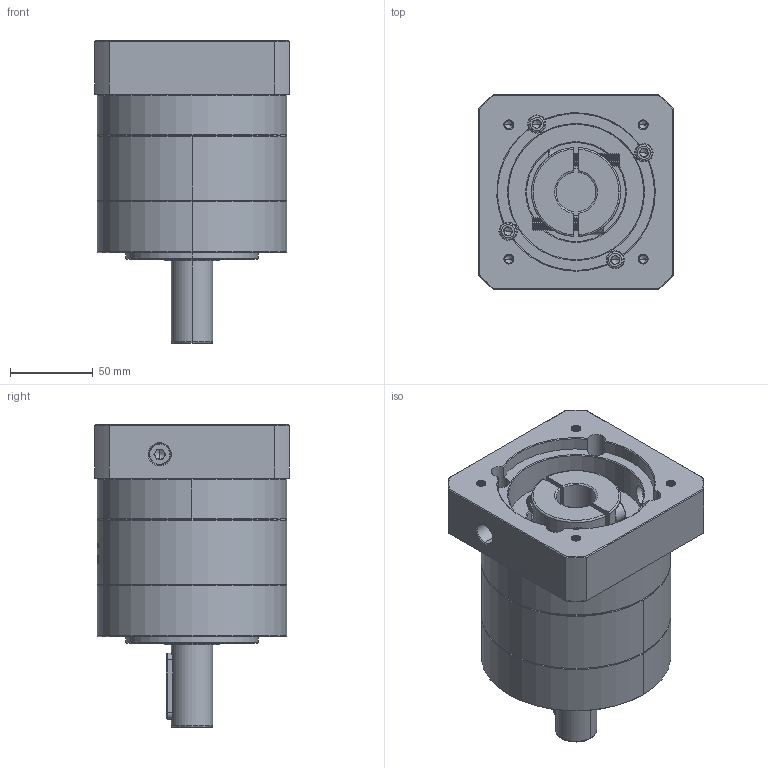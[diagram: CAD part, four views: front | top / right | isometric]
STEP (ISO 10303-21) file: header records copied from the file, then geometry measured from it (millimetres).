
FILE_DESCRIPTION (( 'STEP AP214' ), '1' );
FILE_NAME ('ZE120A-D25-L1-24-95-115-M6.step', '2023-03-09T06:23:00', ( '' ), ( '' ), 'SwSTEP 2.0', 'SolidWorks 2016', '' );
FILE_SCHEMA (( 'AUTOMOTIVE_DESIGN' ));
Length unit declared in the file: millimetre
Products named in the file (1): ZE120A-D25-L1-24-95-115-M6
Bounding box: 118 x 118 x 183.5 mm (x, y, z)
Volume: 1302276.4 mm3; surface area: 152309.5 mm2
Topology: 6 solids, 6 shells, 2046 faces, 5413 edges, 3460 vertices
Faces by surface type: plane 836, cylinder 519, bspline 353, cone 338
Entity records: 118404 total; most frequent: CARTESIAN_POINT 49806, ORIENTED_EDGE 10750, DIRECTION 8110, EDGE_CURVE 5375, VERTEX_POINT 3460, LINE 2806, VECTOR 2806, AXIS2_PLACEMENT_3D 2652
